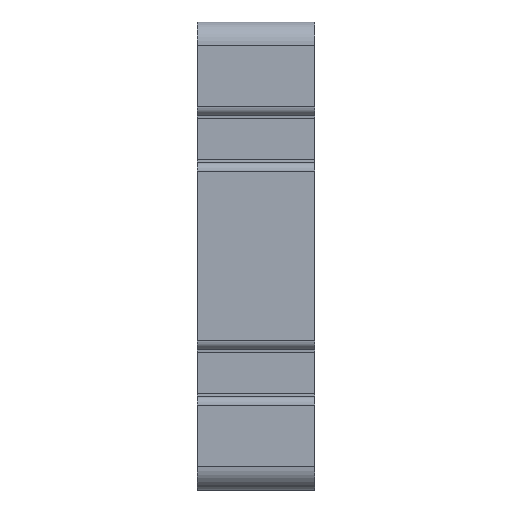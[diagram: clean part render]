
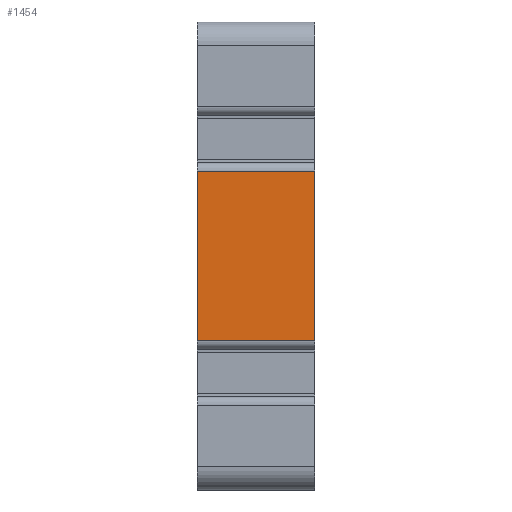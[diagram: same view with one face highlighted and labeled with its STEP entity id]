
A CAD part, left-side view. The second image highlights one B-rep face of the part: STEP entity #1454.
In plain terms, the highlighted planar face has unit normal (-1, 0, 0).
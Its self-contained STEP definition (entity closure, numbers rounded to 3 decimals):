
#1454=ADVANCED_FACE('',(#2999),#3000,.T.);
#2999=FACE_OUTER_BOUND('',#4636,.T.);
#3000=PLANE('',#4637);
#4636=EDGE_LOOP('',(#8949,#8950,#8951,#8952));
#4637=AXIS2_PLACEMENT_3D('',#8953,#8954,#8955);
#8949=ORIENTED_EDGE('',*,*,#12035,.T.);
#8950=ORIENTED_EDGE('',*,*,#12064,.T.);
#8951=ORIENTED_EDGE('',*,*,#12065,.T.);
#8952=ORIENTED_EDGE('',*,*,#11186,.F.);
#8953=CARTESIAN_POINT('',(-80.0,10.0,0.0));
#8954=DIRECTION('',(-1.0,0.0,0.0));
#8955=DIRECTION('',(0.0,0.0,-1.0));
#11186=EDGE_CURVE('',#13837,#13839,#13840,.T.);
#12035=EDGE_CURVE('',#13837,#15105,#15108,.T.);
#12064=EDGE_CURVE('',#15105,#15145,#15146,.T.);
#12065=EDGE_CURVE('',#15145,#13839,#15147,.T.);
#13837=VERTEX_POINT('',#17487);
#13839=VERTEX_POINT('',#17489);
#13840=LINE('',#17490,#17491);
#15105=VERTEX_POINT('',#19180);
#15108=LINE('',#19183,#19184);
#15145=VERTEX_POINT('',#19235);
#15146=LINE('',#19236,#19237);
#15147=LINE('',#19238,#19239);
#17487=CARTESIAN_POINT('',(-80.,10.0,-14.5));
#17489=CARTESIAN_POINT('',(-80.0,10.0,14.5));
#17490=CARTESIAN_POINT('',(-80.0,10.0,-36.0));
#17491=VECTOR('',#21025,1.0);
#19180=CARTESIAN_POINT('',(-80.,-10.0,-14.5));
#19183=CARTESIAN_POINT('',(-80.0,10.0,-14.5));
#19184=VECTOR('',#22077,1.0);
#19235=CARTESIAN_POINT('',(-80.0,-10.0,14.5));
#19236=CARTESIAN_POINT('',(-80.0,-10.0,-36.0));
#19237=VECTOR('',#22104,1.0);
#19238=CARTESIAN_POINT('',(-80.0,0.0,14.5));
#19239=VECTOR('',#22105,1.0);
#21025=DIRECTION('',(0.0,0.0,1.0));
#22077=DIRECTION('',(0.0,-1.0,0.0));
#22104=DIRECTION('',(0.0,0.0,1.0));
#22105=DIRECTION('',(-0.0,1.0,0.0));
